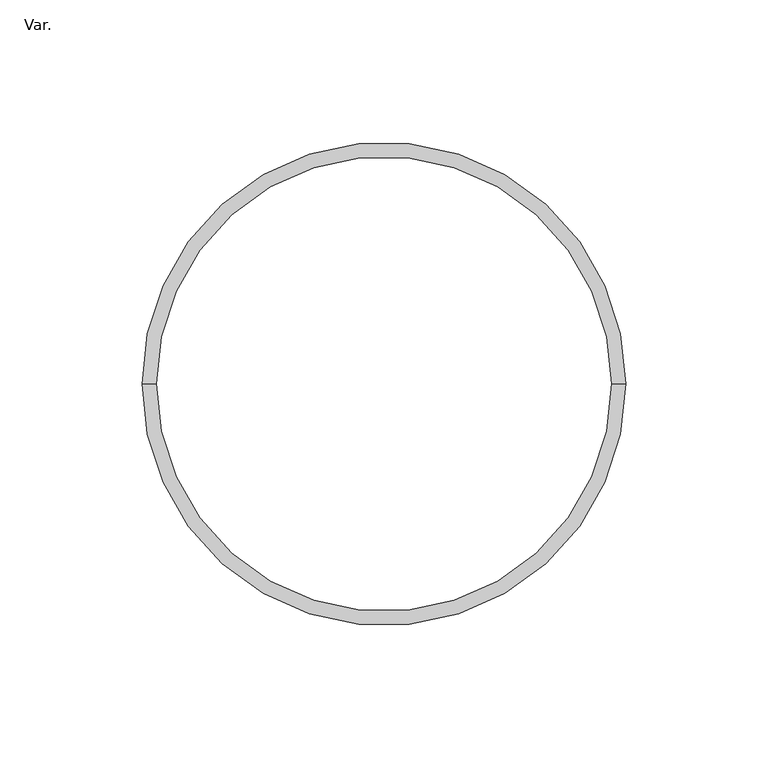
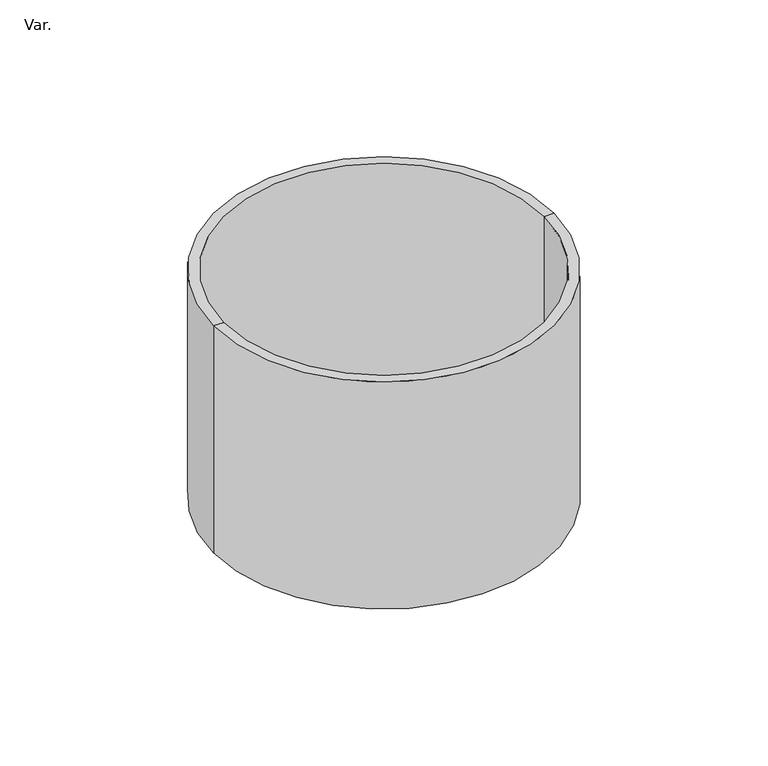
"""IFC4 building model written with IfcOpenShell, lengths in millimetres: pipe fitting geometry, PlastigamaWavin_Unionesdetubería_AquacellCore_ConexiónDN160 : Var.."""

from ifc_helpers import new_model, si_unit, frame, origin, place, context, project, spatial, polyline, circle_curve, source, transform, mapped, element, save
from ifc_brep_helpers import plane_surface, cylinder_surface, revolved_surface, advanced_brep


def var_a671f5a2(model_context):
    return source(origin(), model_context, "Body", "AdvancedBrep", [
        advanced_brep(
        [(80.0, 0.0, 0.0), (-80.0, 0.0, 0.0), (-80.0, 0.0, -120.0), (80.0, 0.0, -120.0), (85.0, 0.0, 0.0), (-85.0, 0.0, 0.0), (85.0, 0.0, -120.0), (-85.0, 0.0, -120.0)],
        [
            (0, 1, circle_curve(frame((0.0, 0.0, 0.0), z_axis=(0.0, 0.0, 1.0), x_axis=(-1.0, 0.0, 0.0)), 80.0)),
            (1, 2),
            (2, 3, circle_curve(frame((0.0, 0.0, -120.0), z_axis=(0.0, 0.0, -1.0), x_axis=(-1.0, 0.0, 0.0)), 80.0)),
            (3, 0),
            (1, 0, circle_curve(frame((0.0, 0.0, 0.0), z_axis=(0.0, 0.0, 1.0), x_axis=(-1.0, 0.0, 0.0)), 80.0)),
            (3, 2, circle_curve(frame((0.0, 0.0, -120.0), z_axis=(0.0, 0.0, -1.0), x_axis=(-1.0, 0.0, 0.0)), 80.0)),
            (4, 5, circle_curve(frame((0.0, 0.0, 0.0), z_axis=(0.0, 0.0, 1.0), x_axis=(-1.0, 0.0, 0.0)), 85.0)),
            (5, 1),
            (0, 4),
            (5, 4, circle_curve(frame((0.0, 0.0, 0.0), z_axis=(0.0, 0.0, 1.0), x_axis=(-1.0, 0.0, 0.0)), 85.0)),
            (6, 7, circle_curve(frame((0.0, 0.0, -120.0), z_axis=(0.0, 0.0, 1.0), x_axis=(-1.0, 0.0, 0.0)), 85.0)),
            (7, 5),
            (4, 6),
            (7, 6, circle_curve(frame((0.0, 0.0, -120.0), z_axis=(0.0, 0.0, 1.0), x_axis=(-1.0, 0.0, 0.0)), 85.0)),
            (2, 7),
            (6, 3),
        ],
        [
            revolved_surface(polyline([(-80.0, 0.0, -120.0), (-80.0, 0.0, 0.0)]), (0.0, 0.0, 0.0), (0.0, 0.0, -1.0)),
            plane_surface(frame((0.0, 0.0, 0.0), z_axis=(0.0, 0.0, 1.0), x_axis=(-1.0, 0.0, 0.0))),
            cylinder_surface(frame((0.0, 0.0, 0.0), z_axis=(0.0, 0.0, -1.0), x_axis=(-1.0, 0.0, 0.0)), 85.0),
            plane_surface(frame((0.0, 0.0, -120.0), z_axis=(0.0, 0.0, -1.0), x_axis=(-1.0, 0.0, 0.0))),
        ],
        [
            (0, [[1, 2, 3, 4]]),
            (0, [[5, -4, 6, -2]]),
            (1, [[7, 8, -1, 9]]),
            (1, [[10, -9, -5, -8]]),
            (2, [[11, 12, -7, 13]]),
            (2, [[14, -13, -10, -12]]),
            (3, [[-3, 15, -11, 16]]),
            (3, [[-6, -16, -14, -15]]),
        ],
    ),
    ])


if __name__ == "__main__":
    model = new_model("IFC4")
    model_context = context("Model", 3, world=origin())
    ifc_project = project(units=[si_unit("LENGTHUNIT", "METRE", prefix="MILLI")], contexts=[model_context])
    site = spatial("IfcSite", under=ifc_project)
    building = spatial("IfcBuilding", under=site)
    placement = place(None, origin())
    var_shape = var_a671f5a2(model_context)
    element("IfcPipeFitting", 1, ObjectType="PlastigamaWavin_Unionesdetubería_AquacellCore_ConexiónDN160 : Var.", at=placement, inside=building, context=model_context, shape_type="MappedRepresentation", body=[
        mapped(var_shape, transform((0.0, 0.0, 0.0), x_axis=(1.0, 0.0, 0.0), y_axis=(0.0, 1.0, 0.0), z_axis=(0.0, 0.0, 1.0))),
    ])
    save(model, "model.ifc")
